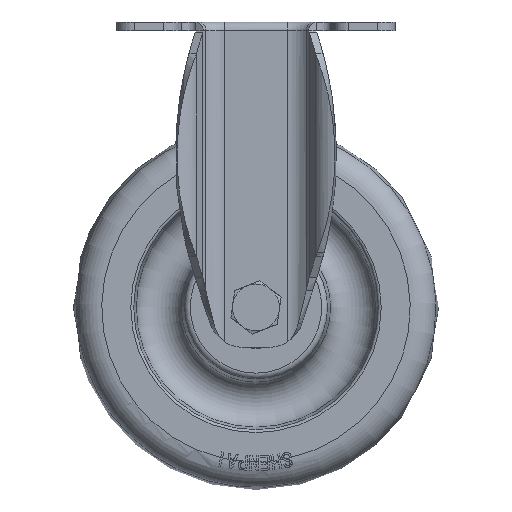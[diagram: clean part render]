
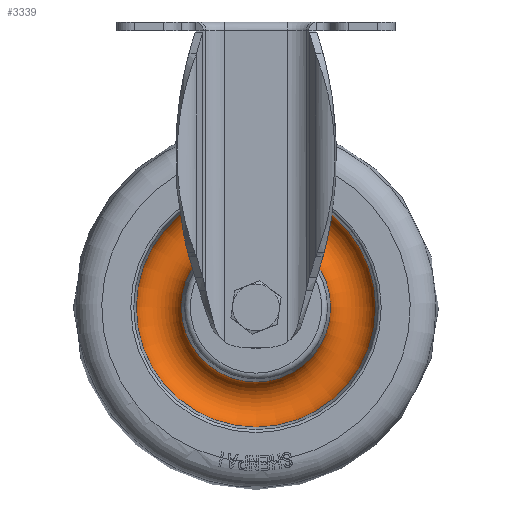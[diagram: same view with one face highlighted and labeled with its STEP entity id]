
A CAD part, front view. The second image highlights one B-rep face of the part: STEP entity #3339.
In plain terms, the highlighted toroidal (fillet/blend) face has major radius 33.201 mm and minor radius 8 mm.
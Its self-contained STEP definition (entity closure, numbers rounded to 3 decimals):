
#1760=TOROIDAL_SURFACE('',#11650,33.201,8.);
#3339=ADVANCED_FACE('',(#4145,#4146),#1760,.F.);
#4145=FACE_BOUND('',#4546,.T.);
#4146=FACE_BOUND('',#4547,.T.);
#4546=EDGE_LOOP('',(#6486));
#4547=EDGE_LOOP('',(#6487));
#6486=ORIENTED_EDGE('',*,*,#10158,.T.);
#6487=ORIENTED_EDGE('',*,*,#10157,.F.);
#8810=VERTEX_POINT('',#18724);
#8811=VERTEX_POINT('',#18727);
#10157=EDGE_CURVE('',#8810,#8810,#11156,.T.);
#10158=EDGE_CURVE('',#8811,#8811,#11157,.T.);
#11156=CIRCLE('',#11647,40.928);
#11157=CIRCLE('',#11649,25.474);
#11647=AXIS2_PLACEMENT_3D('',#18723,#13194,#13195);
#11649=AXIS2_PLACEMENT_3D('',#18726,#13198,#13199);
#11650=AXIS2_PLACEMENT_3D('',#18728,#13200,#13201);
#13194=DIRECTION('',(0.,1.,0.));
#13195=DIRECTION('',(-1.,0.,0.));
#13198=DIRECTION('',(0.,1.,0.));
#13199=DIRECTION('',(-1.,0.,0.));
#13200=DIRECTION('',(0.,1.,0.));
#13201=DIRECTION('',(1.,0.,0.));
#18723=CARTESIAN_POINT('',(0.,-12.251,-97.5));
#18724=CARTESIAN_POINT('',(-40.929,-12.251,-97.5));
#18726=CARTESIAN_POINT('',(0.,-12.251,-97.5));
#18727=CARTESIAN_POINT('',(-25.474,-12.251,-97.5));
#18728=CARTESIAN_POINT('',(0.,-14.321,-97.5));
